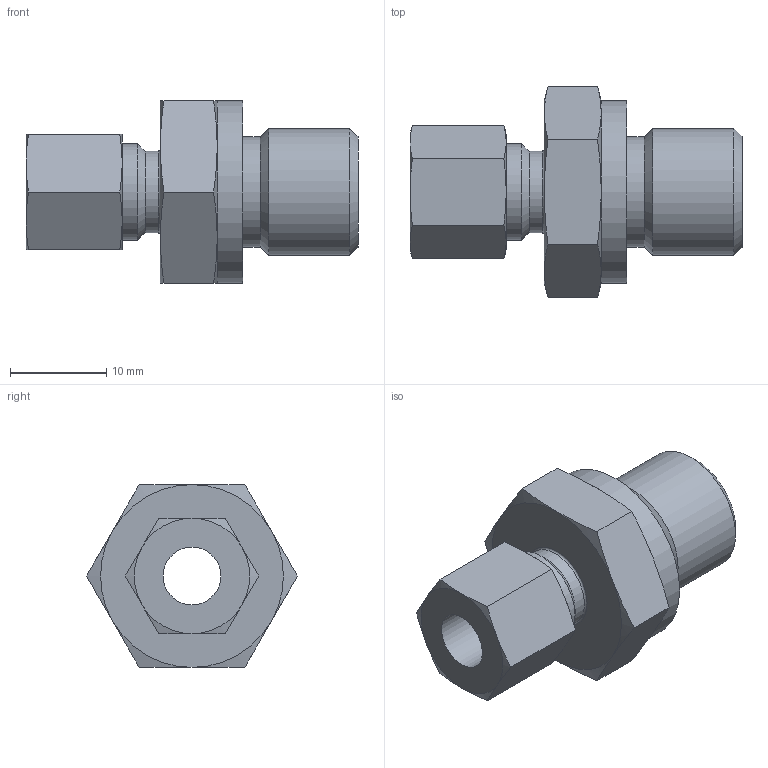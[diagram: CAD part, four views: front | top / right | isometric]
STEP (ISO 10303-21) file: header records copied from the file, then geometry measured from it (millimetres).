
FILE_DESCRIPTION( ( 'STEP AP214' ), ' ' );
FILE_NAME( 'p:/temp/worker_538/2388_3612/app_40_02017110808515333526165192d056f_000000_00_00_000000/format_1/SO 51194-6-1_4 058.1165.110.stp', '2017-11-08T07:51:54', ( '' ), ( '' ), ' ', 'PARTsolutions', ' ' );
FILE_SCHEMA( ( 'AUTOMOTIVE_DESIGN { 1 0 10303 214 1 1 1 1 }' ) );
Length unit declared in the file: millimetre
Products named in the file (1): _SO 51194-6-1/4 058.1165.110
Bounding box: 34.5 x 21.94 x 19 mm (x, y, z)
Volume: 4668.7 mm3; surface area: 2904 mm2
Topology: 1 solids, 1 shells, 51 faces, 108 edges, 62 vertices
Faces by surface type: cone 27, plane 17, cylinder 6, torus 1
Full cylindrical faces by diameter (mm): 6 x1, 8.5 x1, 10 x1, 11.445 x1, 13.157 x1, 19 x1
Entity records: 1812 total; most frequent: CARTESIAN_POINT 410, ORIENTED_EDGE 194, DIRECTION 190, EDGE_CURVE 97, AXIS2_PLACEMENT_3D 89, EDGE_LOOP 66, VERTEX_POINT 61, FACE_OUTER_BOUND 58
